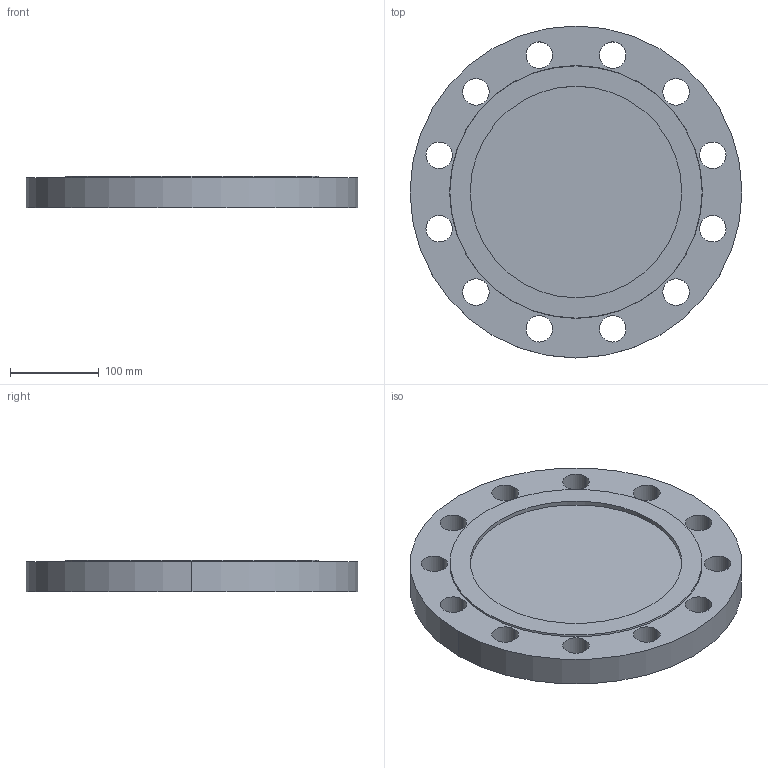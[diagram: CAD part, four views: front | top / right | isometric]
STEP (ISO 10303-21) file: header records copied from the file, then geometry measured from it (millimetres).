
FILE_DESCRIPTION (( 'STEP AP214' ), '1' );
FILE_NAME ('PN40 DN200 Type 05 - Type G Face.STEP', '2019-01-05T02:23:43', ( '' ), ( '' ), 'SwSTEP 2.0', 'SolidWorks 2019', '' );
FILE_SCHEMA (( 'AUTOMOTIVE_DESIGN' ));
Length unit declared in the file: millimetre
Products named in the file (1): PN40 DN200 Type 05 - Type G Face
Bounding box: 375 x 375 x 36 mm (x, y, z)
Volume: 3370377.1 mm3; surface area: 287695.7 mm2
Topology: 1 solids, 1 shells, 34 faces, 90 edges, 60 vertices
Faces by surface type: cylinder 28, plane 4, cone 2
Entity records: 1176 total; most frequent: DIRECTION 220, CARTESIAN_POINT 185, ORIENTED_EDGE 180, AXIS2_PLACEMENT_3D 95, EDGE_CURVE 90, CIRCLE 60, EDGE_LOOP 60, VERTEX_POINT 60
